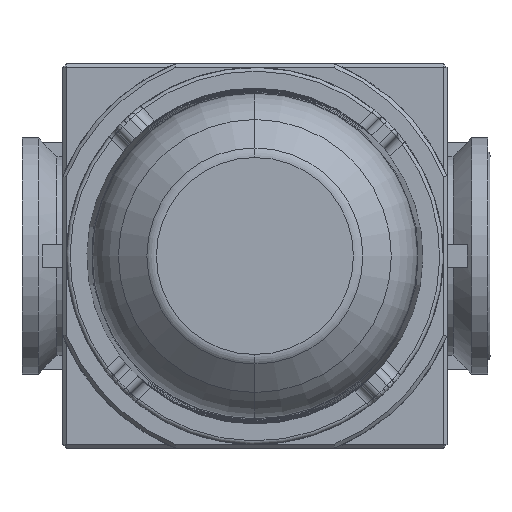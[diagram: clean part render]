
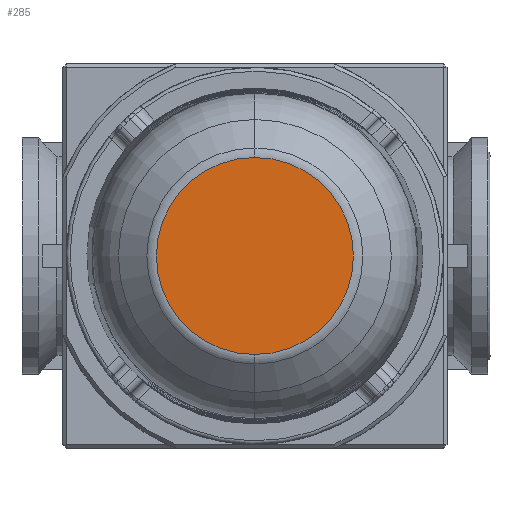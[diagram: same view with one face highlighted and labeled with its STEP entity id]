
A CAD part, front view. The second image highlights one B-rep face of the part: STEP entity #285.
In plain terms, the highlighted planar face has unit normal (0, -1, 0).
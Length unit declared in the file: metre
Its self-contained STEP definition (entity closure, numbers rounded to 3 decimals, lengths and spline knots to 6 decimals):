
#285=ADVANCED_FACE('30:14810',(#1133),#1134,.F.);
#1133=FACE_OUTER_BOUND('',#2353,.T.);
#1134=PLANE('',#2354);
#2353=EDGE_LOOP('',(#7590,#7591));
#2354=AXIS2_PLACEMENT_3D('',#7592,#7593,#7594);
#7590=ORIENTED_EDGE('',*,*,#10994,.F.);
#7591=ORIENTED_EDGE('',*,*,#10507,.F.);
#7592=CARTESIAN_POINT('',(0.01025,-0.1264,0.));
#7593=DIRECTION('',(0.0,1.0,0.0));
#7594=DIRECTION('',(0.0,0.0,1.0));
#10507=EDGE_CURVE('30:16847',#12364,#12366,#12367,.T.);
#10994=EDGE_CURVE('30:16847',#12366,#12364,#13182,.T.);
#12364=VERTEX_POINT('',#16146);
#12366=VERTEX_POINT('',#16148);
#12367=CIRCLE('',#16149,0.013322);
#13182=CIRCLE('',#17711,0.013322);
#16146=CARTESIAN_POINT('',(0.,-0.1264,0.013322));
#16148=CARTESIAN_POINT('',(0.,-0.1264,-0.013322));
#16149=AXIS2_PLACEMENT_3D('',#20990,#20991,#20992);
#17711=AXIS2_PLACEMENT_3D('',#21855,#21856,#21857);
#20990=CARTESIAN_POINT('',(0.,-0.1264,0.));
#20991=DIRECTION('',(0.0,1.0,0.0));
#20992=DIRECTION('',(0.0,0.0,1.0));
#21855=CARTESIAN_POINT('',(0.,-0.1264,0.));
#21856=DIRECTION('',(0.0,1.0,0.0));
#21857=DIRECTION('',(0.0,0.0,1.0));
